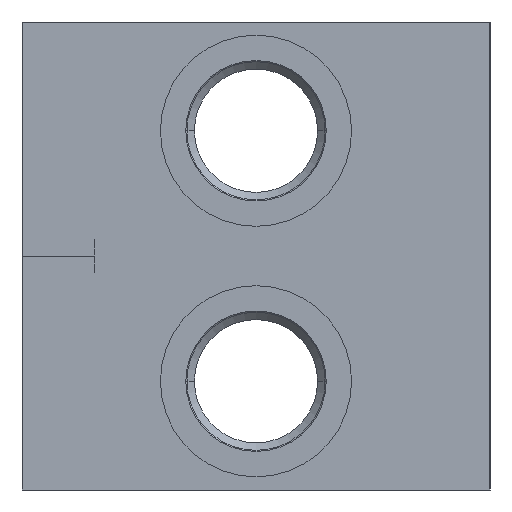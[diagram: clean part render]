
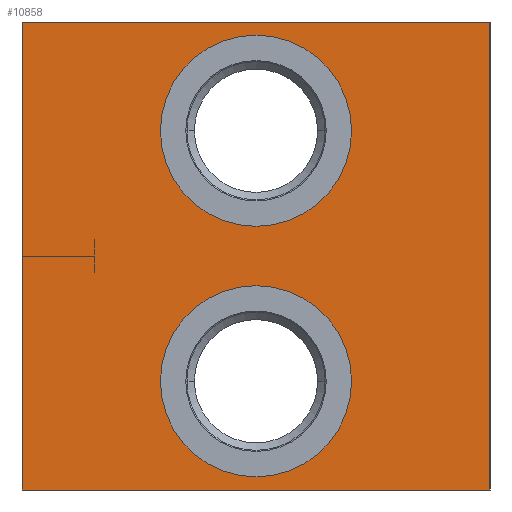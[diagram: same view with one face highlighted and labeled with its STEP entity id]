
A CAD part, left-side view. The second image highlights one B-rep face of the part: STEP entity #10858.
In plain terms, the highlighted planar face has unit normal (-1, 0, 0).
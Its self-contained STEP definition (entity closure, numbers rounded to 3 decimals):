
#30=DIRECTION('',(0.,-1.,0.));
#31=VECTOR('',#30,71.);
#32=CARTESIAN_POINT('',(0.,71.,0.));
#33=LINE('',#32,#31);
#339=DIRECTION('',(0.,0.,-1.));
#340=VECTOR('',#339,71.);
#341=CARTESIAN_POINT('',(0.,0.,0.));
#342=LINE('',#341,#340);
#2552=DIRECTION('',(0.,0.,-1.));
#2553=VECTOR('',#2552,71.);
#2554=CARTESIAN_POINT('',(0.,71.,0.));
#2555=LINE('',#2554,#2553);
#2559=CARTESIAN_POINT('',(0.,35.5,-54.5));
#2560=DIRECTION('',(1.,0.,0.));
#2561=DIRECTION('',(0.,-1.,0.));
#2562=AXIS2_PLACEMENT_3D('',#2559,#2560,#2561);
#2567=CARTESIAN_POINT('',(0.,35.5,-54.5));
#2568=DIRECTION('',(1.,0.,0.));
#2569=DIRECTION('',(0.,1.,0.));
#2570=AXIS2_PLACEMENT_3D('',#2567,#2568,#2569);
#2575=CARTESIAN_POINT('',(0.,35.5,-16.5));
#2576=DIRECTION('',(1.,0.,0.));
#2577=DIRECTION('',(0.,-1.,0.));
#2578=AXIS2_PLACEMENT_3D('',#2575,#2576,#2577);
#2583=CARTESIAN_POINT('',(0.,35.5,-16.5));
#2584=DIRECTION('',(1.,0.,0.));
#2585=DIRECTION('',(0.,1.,0.));
#2586=AXIS2_PLACEMENT_3D('',#2583,#2584,#2585);
#2612=DIRECTION('',(0.,-1.,0.));
#2613=VECTOR('',#2612,71.);
#2614=CARTESIAN_POINT('',(0.,71.,-71.));
#2615=LINE('',#2614,#2613);
#9165=CARTESIAN_POINT('',(0.,0.,0.));
#9167=VERTEX_POINT('',#9165);
#9171=CARTESIAN_POINT('',(0.,71.,0.));
#9172=VERTEX_POINT('',#9171);
#9173=CARTESIAN_POINT('',(0.,0.,-71.));
#9175=VERTEX_POINT('',#9173);
#9179=CARTESIAN_POINT('',(0.,71.,-71.));
#9180=VERTEX_POINT('',#9179);
#9209=CARTESIAN_POINT('',(0.,21.,-54.5));
#9210=CARTESIAN_POINT('',(0.,50.,-54.5));
#9211=VERTEX_POINT('',#9209);
#9212=VERTEX_POINT('',#9210);
#9225=CARTESIAN_POINT('',(0.,21.,-16.5));
#9226=CARTESIAN_POINT('',(0.,50.,-16.5));
#9227=VERTEX_POINT('',#9225);
#9228=VERTEX_POINT('',#9226);
#10834=CARTESIAN_POINT('',(0.,71.,0.));
#10835=DIRECTION('',(-1.,0.,0.));
#10836=DIRECTION('',(0.,-1.,0.));
#10837=AXIS2_PLACEMENT_3D('',#10834,#10835,#10836);
#10838=PLANE('',#10837);
#10839=ORIENTED_EDGE('',*,*,#10202,.T.);
#10840=ORIENTED_EDGE('',*,*,#10336,.T.);
#10842=ORIENTED_EDGE('',*,*,#10841,.F.);
#10843=ORIENTED_EDGE('',*,*,#10423,.F.);
#10844=EDGE_LOOP('',(#10839,#10840,#10842,#10843));
#10845=FACE_OUTER_BOUND('',#10844,.F.);
#10847=ORIENTED_EDGE('',*,*,#10846,.F.);
#10849=ORIENTED_EDGE('',*,*,#10848,.F.);
#10850=EDGE_LOOP('',(#10847,#10849));
#10851=FACE_BOUND('',#10850,.F.);
#10853=ORIENTED_EDGE('',*,*,#10852,.F.);
#10855=ORIENTED_EDGE('',*,*,#10854,.F.);
#10856=EDGE_LOOP('',(#10853,#10855));
#10857=FACE_BOUND('',#10856,.F.);
#2563=CIRCLE('',#2562,14.5);
#2571=CIRCLE('',#2570,14.5);
#2579=CIRCLE('',#2578,14.5);
#2587=CIRCLE('',#2586,14.5);
#10202=EDGE_CURVE('',#9172,#9167,#33,.T.);
#10336=EDGE_CURVE('',#9167,#9175,#342,.T.);
#10423=EDGE_CURVE('',#9172,#9180,#2555,.T.);
#10841=EDGE_CURVE('',#9180,#9175,#2615,.T.);
#10846=EDGE_CURVE('',#9211,#9212,#2563,.T.);
#10848=EDGE_CURVE('',#9212,#9211,#2571,.T.);
#10852=EDGE_CURVE('',#9227,#9228,#2579,.T.);
#10854=EDGE_CURVE('',#9228,#9227,#2587,.T.);
#10858=ADVANCED_FACE('',(#10845,#10851,#10857),#10838,.T.);
